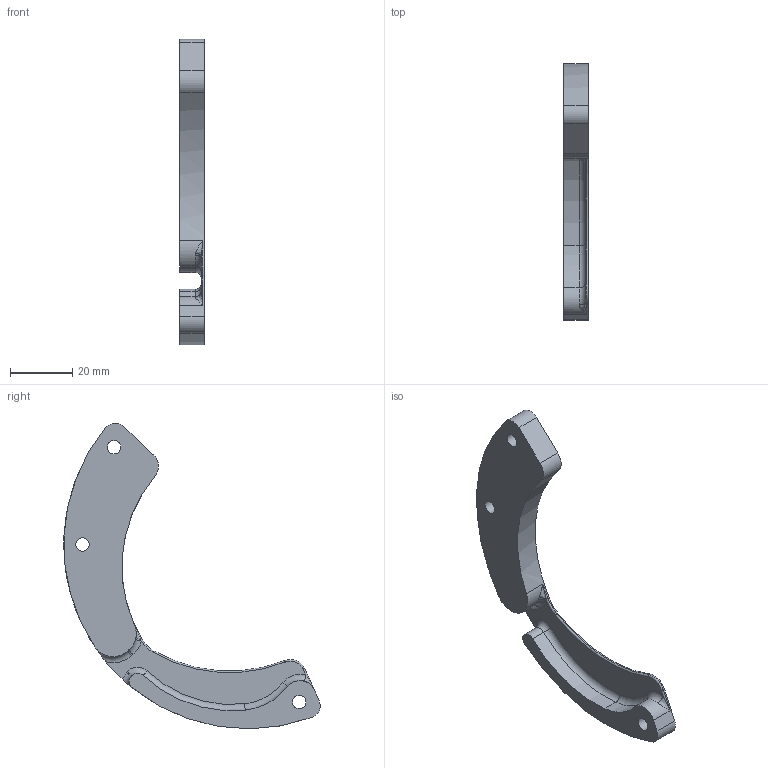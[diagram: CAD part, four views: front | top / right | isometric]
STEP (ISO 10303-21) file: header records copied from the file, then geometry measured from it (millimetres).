
FILE_DESCRIPTION(/* description */ ('STEP AP242 Edition 2','CAx-IF Rec.Pracs.---Representation and Presentation of Product Manufacturing Information (PMI)---4.0---2014-10-13','CAx-IF Rec.Pracs.---3D Tessellated Geometry---0.4---2014-09-14','2;1','CAx-IF Rec.Pracs.---User Defined Attributes---1.5---2016-08-15'),/* implementation_level */ '2;1');
FILE_NAME(/* name */ 'Assy_ForMFG - KD-D-104L_L_Hip_Yoke_Hardstop (1)',/* time_stamp */ '2026-05-15T19:56:33Z',/* author */ (''),/* organization */ (''),/* preprocessor_version */ 'ST-DEVELOPER v20',/* originating_system */ 'ONSHAPE BY PTC INC, 1.215',/* authorisation */ ' ');
FILE_SCHEMA (('AP242_MANAGED_MODEL_BASED_3D_ENGINEERING_MIM_LF { 1 0 10303 442 3 1 4 }'));
Length unit declared in the file: metre
Products named in the file (1): KD-D-104L_L_Hip_Yoke_Hardstop
Bounding box: 8 x 82.1 x 97.85 mm (x, y, z)
Volume: 14115.3 mm3; surface area: 7769.5 mm2
Topology: 1 solids, 1 shells, 56 faces, 139 edges, 87 vertices
Faces by surface type: cylinder 27, plane 15, torus 11, bspline 3
Full cylindrical faces by diameter (mm): 4.3 x3, 8.25 x3
Entity records: 1699 total; most frequent: CARTESIAN_POINT 350, DIRECTION 301, ORIENTED_EDGE 256, EDGE_CURVE 128, AXIS2_PLACEMENT_3D 128, VERTEX_POINT 84, CIRCLE 74, EDGE_LOOP 72
